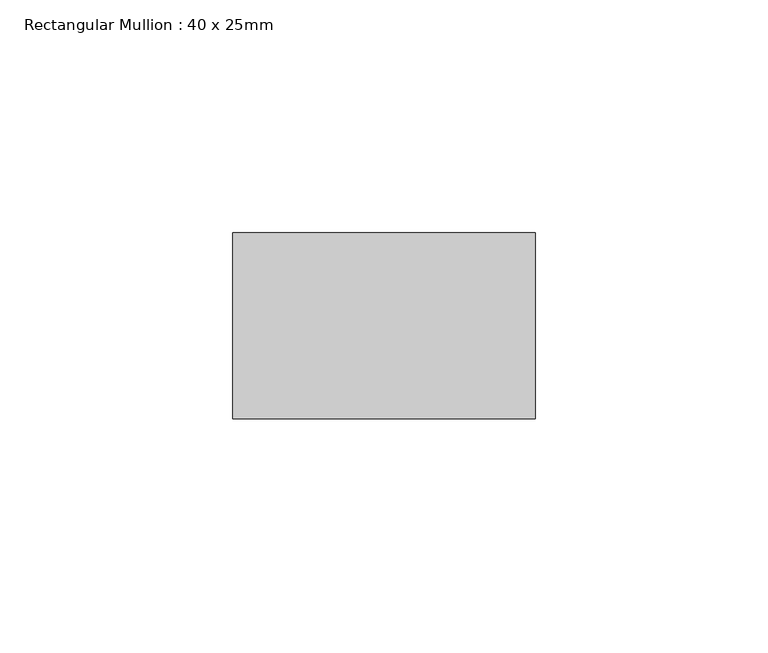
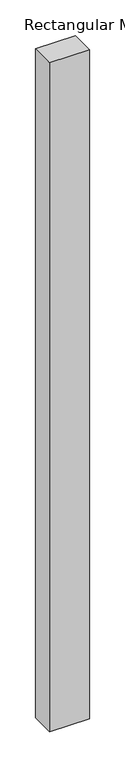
"""IFC4 building model written with IfcOpenShell, lengths in millimetres: member geometry, Rectangular Mullion : 40 x 25mm."""

from ifc_helpers import new_model, si_unit, frame, origin, place, context, project, spatial, polyline, outline, extrude, source, transform, mapped, element, save


def rectangular_mullion_40_x_25mm_7aaf0ff5(model_context):
    return source(origin(), model_context, "Body", "SweptSolid", [
        extrude(outline(polyline([(0.0, -20.0), (0.0, -60.0), (-65.0, -60.0), (-65.0, -20.0), (0.0, -20.0)])), frame((0.0, 0.0, -1149.7461108), z_axis=(0.0, 0.0, 1.0), x_axis=(1.0, 0.0, 0.0)), (0.0, 0.0, 1.0), 1149.7461108),
    ])


if __name__ == "__main__":
    model = new_model("IFC4")
    model_context = context("Model", 3, world=origin())
    ifc_project = project(units=[si_unit("LENGTHUNIT", "METRE", prefix="MILLI")], contexts=[model_context])
    site = spatial("IfcSite", under=ifc_project)
    building = spatial("IfcBuilding", under=site)
    placement = place(None, origin())
    rectangular_mullion_40_x_25mm_shape = rectangular_mullion_40_x_25mm_7aaf0ff5(model_context)
    element("IfcMember", 1, ObjectType="Rectangular Mullion : 40 x 25mm", at=placement, inside=building, context=model_context, shape_type="MappedRepresentation", body=[
        mapped(rectangular_mullion_40_x_25mm_shape, transform((0.0, 0.0, 0.0), x_axis=(1.0, 0.0, 0.0), y_axis=(0.0, 1.0, 0.0), z_axis=(0.0, 0.0, 1.0))),
    ])
    save(model, "model.ifc")
